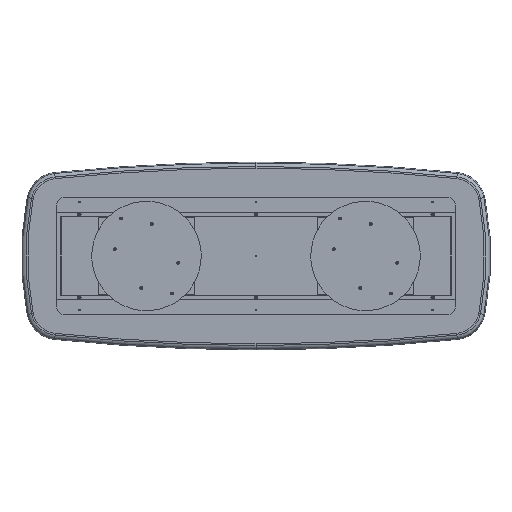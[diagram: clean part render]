
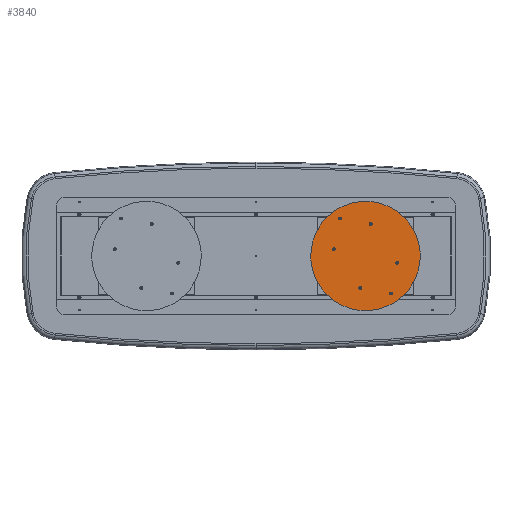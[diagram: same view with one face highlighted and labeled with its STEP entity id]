
A CAD part, front view. The second image highlights one B-rep face of the part: STEP entity #3840.
In plain terms, the highlighted planar face has unit normal (0, -1, 0).
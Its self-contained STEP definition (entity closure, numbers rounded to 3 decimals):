
#175 = CIRCLE ( 'NONE', #8511, 8.65 ) ;
#263 = CARTESIAN_POINT ( 'NONE',  ( 150., 0., 151.15 ) ) ;
#312 = EDGE_CURVE ( 'NONE', #22133, #775, #16519, .T. ) ;
#313 = CARTESIAN_POINT ( 'NONE',  ( -150., 0., 142.5 ) ) ;
#584 = VERTEX_POINT ( 'NONE', #14170 ) ;
#775 = VERTEX_POINT ( 'NONE', #13321 ) ;
#867 = CIRCLE ( 'NONE', #6533, 350. ) ;
#1339 = ORIENTED_EDGE ( 'NONE', *, *, #7291, .F. ) ;
#1467 = FACE_BOUND ( 'NONE', #7651, .T. ) ;
#1693 = AXIS2_PLACEMENT_3D ( 'NONE', #16742, #20145, #18371 ) ;
#1817 = CARTESIAN_POINT ( 'NONE',  ( 150., 0., 142.5 ) ) ;
#1846 = EDGE_CURVE ( 'NONE', #775, #22133, #23003, .T. ) ;
#2100 = DIRECTION ( 'NONE',  ( 0., 0., -1. ) ) ;
#2432 = EDGE_CURVE ( 'NONE', #13035, #19152, #10888, .T. ) ;
#3064 = CARTESIAN_POINT ( 'NONE',  ( 0., 0., 350. ) ) ;
#3071 = CIRCLE ( 'NONE', #16279, 8.65 ) ;
#3119 = AXIS2_PLACEMENT_3D ( 'NONE', #9324, #9446, #2100 ) ;
#3135 = CARTESIAN_POINT ( 'NONE',  ( 290., 0., 0. ) ) ;
#3273 = CARTESIAN_POINT ( 'NONE',  ( 150., 0., -142.5 ) ) ;
#3459 = VERTEX_POINT ( 'NONE', #13825 ) ;
#3613 = AXIS2_PLACEMENT_3D ( 'NONE', #12789, #7599, #12896 ) ;
#3840 = ADVANCED_FACE ( 'NONE', ( #18984, #17669, #17555, #1467, #8700, #15893, #23098 ), #10809, .F. ) ;
#4050 = DIRECTION ( 'NONE',  ( 0., -1., 0. ) ) ;
#4126 = CIRCLE ( 'NONE', #7159, 8.65 ) ;
#4196 = DIRECTION ( 'NONE',  ( 0., 0., -1. ) ) ;
#4326 = CIRCLE ( 'NONE', #1693, 8.65 ) ;
#4501 = DIRECTION ( 'NONE',  ( 0., 0., -1. ) ) ;
#4553 = EDGE_CURVE ( 'NONE', #18231, #5609, #17949, .T. ) ;
#4872 = AXIS2_PLACEMENT_3D ( 'NONE', #15017, #18431, #9833 ) ;
#4887 = EDGE_LOOP ( 'NONE', ( #15138, #5638 ) ) ;
#4903 = CARTESIAN_POINT ( 'NONE',  ( 150., 0., -133.85 ) ) ;
#5440 = ORIENTED_EDGE ( 'NONE', *, *, #4553, .F. ) ;
#5609 = VERTEX_POINT ( 'NONE', #19278 ) ;
#5638 = ORIENTED_EDGE ( 'NONE', *, *, #5769, .F. ) ;
#5664 = VERTEX_POINT ( 'NONE', #263 ) ;
#5665 = DIRECTION ( 'NONE',  ( 0., 1., 0. ) ) ;
#5769 = EDGE_CURVE ( 'NONE', #5664, #3459, #14012, .T. ) ;
#6078 = DIRECTION ( 'NONE',  ( 0., -1., 0. ) ) ;
#6303 = CARTESIAN_POINT ( 'NONE',  ( 0., 0., 0. ) ) ;
#6440 = EDGE_CURVE ( 'NONE', #19152, #13035, #11673, .T. ) ;
#6533 = AXIS2_PLACEMENT_3D ( 'NONE', #20313, #5665, #12857 ) ;
#6866 = DIRECTION ( 'NONE',  ( 0., 0., -1. ) ) ;
#6916 = EDGE_LOOP ( 'NONE', ( #1339, #23200 ) ) ;
#7048 = EDGE_CURVE ( 'NONE', #14113, #12231, #4126, .T. ) ;
#7159 = AXIS2_PLACEMENT_3D ( 'NONE', #3273, #4050, #18464 ) ;
#7271 = CIRCLE ( 'NONE', #3119, 8.65 ) ;
#7291 = EDGE_CURVE ( 'NONE', #13778, #19709, #12078, .T. ) ;
#7389 = DIRECTION ( 'NONE',  ( 0., -1., 0. ) ) ;
#7538 = DIRECTION ( 'NONE',  ( 0., -1., 0. ) ) ;
#7553 = ORIENTED_EDGE ( 'NONE', *, *, #7048, .F. ) ;
#7599 = DIRECTION ( 'NONE',  ( 0., 1., 0. ) ) ;
#7651 = EDGE_LOOP ( 'NONE', ( #14184, #23217 ) ) ;
#7665 = CARTESIAN_POINT ( 'NONE',  ( 150., 0., -151.15 ) ) ;
#7745 = DIRECTION ( 'NONE',  ( 0., -1., 0. ) ) ;
#8297 = CARTESIAN_POINT ( 'NONE',  ( -150., 0., 142.5 ) ) ;
#8511 = AXIS2_PLACEMENT_3D ( 'NONE', #3135, #20867, #15440 ) ;
#8538 = AXIS2_PLACEMENT_3D ( 'NONE', #14896, #22344, #9352 ) ;
#8687 = ORIENTED_EDGE ( 'NONE', *, *, #8850, .F. ) ;
#8700 = FACE_BOUND ( 'NONE', #4887, .T. ) ;
#8705 = AXIS2_PLACEMENT_3D ( 'NONE', #6303, #22261, #9980 ) ;
#8850 = EDGE_CURVE ( 'NONE', #5609, #18231, #3071, .T. ) ;
#9324 = CARTESIAN_POINT ( 'NONE',  ( 150., 0., -142.5 ) ) ;
#9352 = DIRECTION ( 'NONE',  ( 0., 0., -1. ) ) ;
#9446 = DIRECTION ( 'NONE',  ( 0., -1., 0. ) ) ;
#9591 = AXIS2_PLACEMENT_3D ( 'NONE', #14820, #7389, #13039 ) ;
#9641 = CARTESIAN_POINT ( 'NONE',  ( -150., 0., 151.15 ) ) ;
#9734 = EDGE_LOOP ( 'NONE', ( #13105, #15533 ) ) ;
#9833 = DIRECTION ( 'NONE',  ( 0., 0., -1. ) ) ;
#9980 = DIRECTION ( 'NONE',  ( 0., 0., 1. ) ) ;
#10346 = EDGE_CURVE ( 'NONE', #12231, #14113, #7271, .T. ) ;
#10809 = PLANE ( 'NONE',  #3613 ) ;
#10888 = CIRCLE ( 'NONE', #22193, 8.65 ) ;
#11645 = EDGE_LOOP ( 'NONE', ( #13954, #16380 ) ) ;
#11673 = CIRCLE ( 'NONE', #4872, 8.65 ) ;
#12078 = CIRCLE ( 'NONE', #8705, 350. ) ;
#12231 = VERTEX_POINT ( 'NONE', #7665 ) ;
#12789 = CARTESIAN_POINT ( 'NONE',  ( 0., 0., 0. ) ) ;
#12857 = DIRECTION ( 'NONE',  ( 0., 0., 1. ) ) ;
#12896 = DIRECTION ( 'NONE',  ( 0., 0., 1. ) ) ;
#13035 = VERTEX_POINT ( 'NONE', #19647 ) ;
#13039 = DIRECTION ( 'NONE',  ( 0., 0., -1. ) ) ;
#13044 = CARTESIAN_POINT ( 'NONE',  ( -150., 0., -142.5 ) ) ;
#13105 = ORIENTED_EDGE ( 'NONE', *, *, #1846, .F. ) ;
#13113 = AXIS2_PLACEMENT_3D ( 'NONE', #8297, #17156, #4501 ) ;
#13321 = CARTESIAN_POINT ( 'NONE',  ( -150., 0., 133.85 ) ) ;
#13738 = CIRCLE ( 'NONE', #9591, 8.65 ) ;
#13778 = VERTEX_POINT ( 'NONE', #14719 ) ;
#13825 = CARTESIAN_POINT ( 'NONE',  ( 150., 0., 133.85 ) ) ;
#13830 = EDGE_CURVE ( 'NONE', #16169, #584, #4326, .T. ) ;
#13954 = ORIENTED_EDGE ( 'NONE', *, *, #6440, .F. ) ;
#14012 = CIRCLE ( 'NONE', #14743, 8.65 ) ;
#14036 = EDGE_CURVE ( 'NONE', #584, #16169, #175, .T. ) ;
#14113 = VERTEX_POINT ( 'NONE', #4903 ) ;
#14170 = CARTESIAN_POINT ( 'NONE',  ( 290., 0., -8.65 ) ) ;
#14184 = ORIENTED_EDGE ( 'NONE', *, *, #14036, .F. ) ;
#14641 = EDGE_LOOP ( 'NONE', ( #20083, #7553 ) ) ;
#14719 = CARTESIAN_POINT ( 'NONE',  ( 0., 0., -350. ) ) ;
#14743 = AXIS2_PLACEMENT_3D ( 'NONE', #1817, #18011, #20231 ) ;
#14815 = DIRECTION ( 'NONE',  ( 0., 0., -1. ) ) ;
#14820 = CARTESIAN_POINT ( 'NONE',  ( 150., 0., 142.5 ) ) ;
#14896 = CARTESIAN_POINT ( 'NONE',  ( -290., 0., 0. ) ) ;
#15017 = CARTESIAN_POINT ( 'NONE',  ( -150., 0., -142.5 ) ) ;
#15138 = ORIENTED_EDGE ( 'NONE', *, *, #20270, .F. ) ;
#15180 = CARTESIAN_POINT ( 'NONE',  ( -290., 0., 0. ) ) ;
#15440 = DIRECTION ( 'NONE',  ( 0., 0., -1. ) ) ;
#15533 = ORIENTED_EDGE ( 'NONE', *, *, #312, .F. ) ;
#15893 = FACE_BOUND ( 'NONE', #9734, .T. ) ;
#16169 = VERTEX_POINT ( 'NONE', #19146 ) ;
#16279 = AXIS2_PLACEMENT_3D ( 'NONE', #15180, #6078, #14815 ) ;
#16380 = ORIENTED_EDGE ( 'NONE', *, *, #2432, .F. ) ;
#16519 = CIRCLE ( 'NONE', #13113, 8.65 ) ;
#16742 = CARTESIAN_POINT ( 'NONE',  ( 290., 0., 0. ) ) ;
#17156 = DIRECTION ( 'NONE',  ( 0., -1., 0. ) ) ;
#17555 = FACE_BOUND ( 'NONE', #14641, .T. ) ;
#17669 = FACE_BOUND ( 'NONE', #11645, .T. ) ;
#17949 = CIRCLE ( 'NONE', #8538, 8.65 ) ;
#18011 = DIRECTION ( 'NONE',  ( 0., -1., 0. ) ) ;
#18231 = VERTEX_POINT ( 'NONE', #20183 ) ;
#18371 = DIRECTION ( 'NONE',  ( 0., 0., -1. ) ) ;
#18431 = DIRECTION ( 'NONE',  ( 0., -1., 0. ) ) ;
#18464 = DIRECTION ( 'NONE',  ( 0., 0., -1. ) ) ;
#18984 = FACE_BOUND ( 'NONE', #20391, .T. ) ;
#19146 = CARTESIAN_POINT ( 'NONE',  ( 290., 0., 8.65 ) ) ;
#19152 = VERTEX_POINT ( 'NONE', #22604 ) ;
#19278 = CARTESIAN_POINT ( 'NONE',  ( -290., 0., 8.65 ) ) ;
#19541 = EDGE_CURVE ( 'NONE', #19709, #13778, #867, .T. ) ;
#19647 = CARTESIAN_POINT ( 'NONE',  ( -150., 0., -133.85 ) ) ;
#19709 = VERTEX_POINT ( 'NONE', #3064 ) ;
#20083 = ORIENTED_EDGE ( 'NONE', *, *, #10346, .F. ) ;
#20145 = DIRECTION ( 'NONE',  ( 0., -1., 0. ) ) ;
#20183 = CARTESIAN_POINT ( 'NONE',  ( -290., 0., -8.65 ) ) ;
#20231 = DIRECTION ( 'NONE',  ( 0., 0., -1. ) ) ;
#20270 = EDGE_CURVE ( 'NONE', #3459, #5664, #13738, .T. ) ;
#20313 = CARTESIAN_POINT ( 'NONE',  ( 0., 0., 0. ) ) ;
#20391 = EDGE_LOOP ( 'NONE', ( #5440, #8687 ) ) ;
#20687 = AXIS2_PLACEMENT_3D ( 'NONE', #313, #7538, #6866 ) ;
#20867 = DIRECTION ( 'NONE',  ( 0., -1., 0. ) ) ;
#22133 = VERTEX_POINT ( 'NONE', #9641 ) ;
#22193 = AXIS2_PLACEMENT_3D ( 'NONE', #13044, #7745, #4196 ) ;
#22261 = DIRECTION ( 'NONE',  ( 0., 1., 0. ) ) ;
#22344 = DIRECTION ( 'NONE',  ( 0., -1., 0. ) ) ;
#22604 = CARTESIAN_POINT ( 'NONE',  ( -150., 0., -151.15 ) ) ;
#23003 = CIRCLE ( 'NONE', #20687, 8.65 ) ;
#23098 = FACE_OUTER_BOUND ( 'NONE', #6916, .T. ) ;
#23200 = ORIENTED_EDGE ( 'NONE', *, *, #19541, .F. ) ;
#23217 = ORIENTED_EDGE ( 'NONE', *, *, #13830, .F. ) ;
